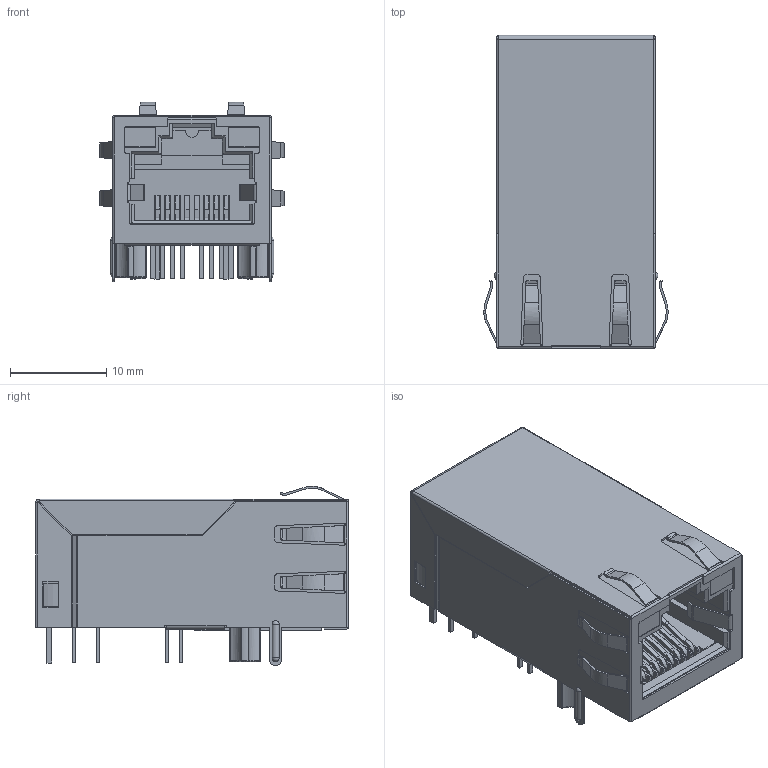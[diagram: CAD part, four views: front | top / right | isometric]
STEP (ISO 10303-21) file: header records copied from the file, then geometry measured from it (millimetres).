
FILE_DESCRIPTION((''),'2;1');
FILE_NAME('DGKYD411Q199DB2A1DP','2023-09-14T09:21:38',('Administrator'),(''),'CREO PARAMETRIC BY PTC INC, 2019010','CREO PARAMETRIC BY PTC INC, 2019010','');
FILE_SCHEMA(('CONFIG_CONTROL_DESIGN'));
Length unit declared in the file: millimetre
Products named in the file (1): DGKYD411Q199DB2A1DP
Bounding box: 19.14 x 32.5 x 18.62 mm (x, y, z)
Volume: 2930.4 mm3; surface area: 10313.7 mm2
Topology: 1 solids, 2 shells, 1573 faces, 4191 edges, 2604 vertices
Faces by surface type: plane 1066, cylinder 361, bspline 50, torus 48, sphere 32, extrusion 16
Entity records: 52222 total; most frequent: CARTESIAN_POINT 13295, ORIENTED_EDGE 8310, DIRECTION 7697, EDGE_CURVE 4163, VECTOR 3211, LINE 3195, VERTEX_POINT 2604, AXIS2_PLACEMENT_3D 2243
